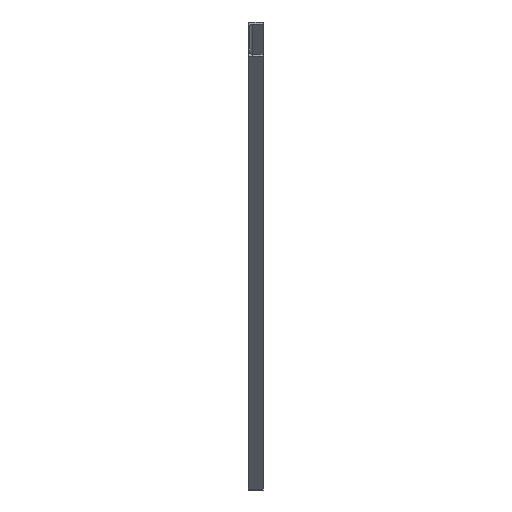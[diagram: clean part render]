
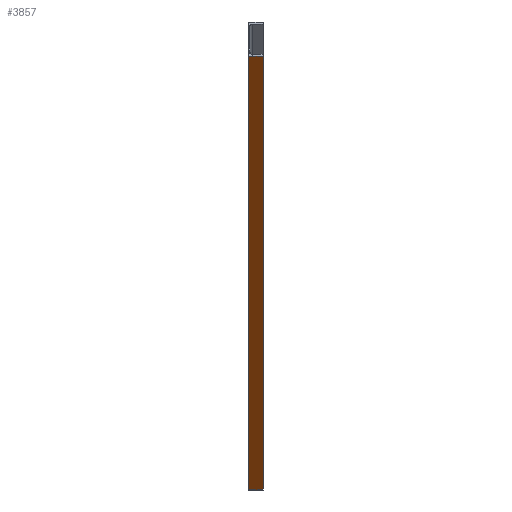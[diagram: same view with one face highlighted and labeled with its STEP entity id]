
A CAD part, left-side view. The second image highlights one B-rep face of the part: STEP entity #3857.
In plain terms, the highlighted planar face has unit normal (-0.707, 0, -0.707).
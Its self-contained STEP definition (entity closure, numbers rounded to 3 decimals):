
#158 = VERTEX_POINT ( 'NONE', #3824 ) ;
#436 = EDGE_CURVE ( 'NONE', #158, #970, #3567, .T. ) ;
#565 = CARTESIAN_POINT ( 'NONE',  ( 13572.721, 8.5, -187.279 ) ) ;
#569 = AXIS2_PLACEMENT_3D ( 'NONE', #565, #979, #4780 ) ;
#970 = VERTEX_POINT ( 'NONE', #1309 ) ;
#979 = DIRECTION ( 'NONE',  ( 0.707, 0., 0.707 ) ) ;
#1074 = EDGE_CURVE ( 'NONE', #3777, #2253, #1283, .T. ) ;
#1283 = LINE ( 'NONE', #3160, #4697 ) ;
#1286 = VECTOR ( 'NONE', #2115, 1000. ) ;
#1298 = CARTESIAN_POINT ( 'NONE',  ( 11175.442, 8.5, 2210. ) ) ;
#1309 = CARTESIAN_POINT ( 'NONE',  ( 11175.442, -66.5, 2210. ) ) ;
#1483 = CARTESIAN_POINT ( 'NONE',  ( 11175.442, 8.5, 2210. ) ) ;
#2114 = ORIENTED_EDGE ( 'NONE', *, *, #4494, .F. ) ;
#2115 = DIRECTION ( 'NONE',  ( -0.707, 0., 0.707 ) ) ;
#2133 = ORIENTED_EDGE ( 'NONE', *, *, #436, .T. ) ;
#2253 = VERTEX_POINT ( 'NONE', #1483 ) ;
#2512 = CARTESIAN_POINT ( 'NONE',  ( 13572.721, -66.5, -187.279 ) ) ;
#2770 = CARTESIAN_POINT ( 'NONE',  ( 13445.442, 8.5, -60. ) ) ;
#2851 = VECTOR ( 'NONE', #3157, 1000. ) ;
#2860 = VECTOR ( 'NONE', #4313, 1000. ) ;
#2948 = ORIENTED_EDGE ( 'NONE', *, *, #3305, .T. ) ;
#3157 = DIRECTION ( 'NONE',  ( 0., -1., 0. ) ) ;
#3160 = CARTESIAN_POINT ( 'NONE',  ( 13572.721, 8.5, -187.279 ) ) ;
#3305 = EDGE_CURVE ( 'NONE', #3777, #158, #4654, .T. ) ;
#3493 = EDGE_LOOP ( 'NONE', ( #2114, #4920, #2948, #2133 ) ) ;
#3567 = LINE ( 'NONE', #2512, #1286 ) ;
#3777 = VERTEX_POINT ( 'NONE', #4671 ) ;
#3824 = CARTESIAN_POINT ( 'NONE',  ( 13445.442, -66.5, -60. ) ) ;
#3857 = ADVANCED_FACE ( 'NONE', ( #3954 ), #4054, .F. ) ;
#3954 = FACE_OUTER_BOUND ( 'NONE', #3493, .T. ) ;
#4054 = PLANE ( 'NONE',  #569 ) ;
#4313 = DIRECTION ( 'NONE',  ( 0., -1., 0. ) ) ;
#4494 = EDGE_CURVE ( 'NONE', #2253, #970, #4693, .T. ) ;
#4654 = LINE ( 'NONE', #2770, #2851 ) ;
#4671 = CARTESIAN_POINT ( 'NONE',  ( 13445.442, 8.5, -60. ) ) ;
#4684 = DIRECTION ( 'NONE',  ( -0.707, 0., 0.707 ) ) ;
#4693 = LINE ( 'NONE', #1298, #2860 ) ;
#4697 = VECTOR ( 'NONE', #4684, 1000. ) ;
#4780 = DIRECTION ( 'NONE',  ( 0.707, 0., -0.707 ) ) ;
#4920 = ORIENTED_EDGE ( 'NONE', *, *, #1074, .F. ) ;
